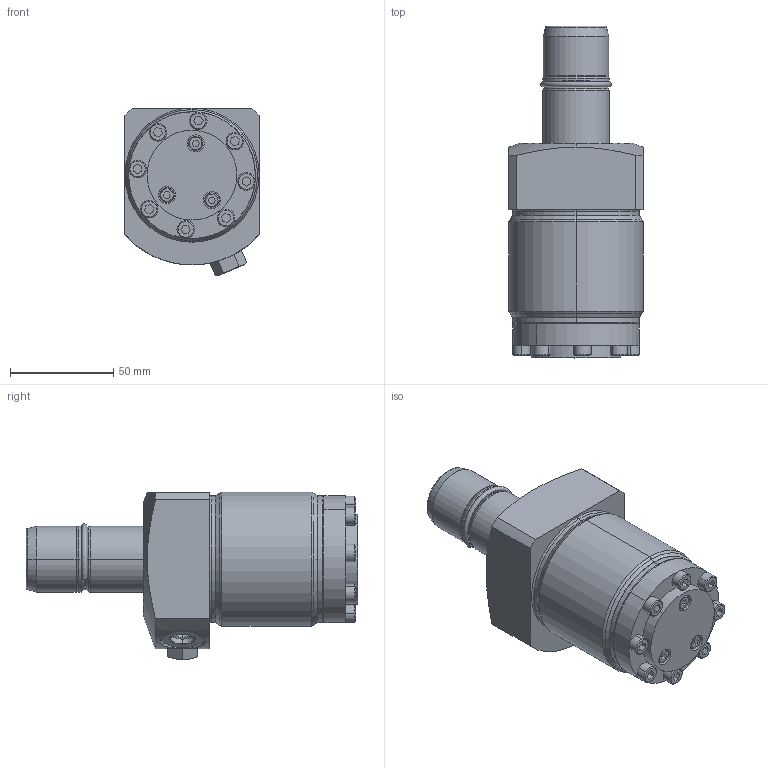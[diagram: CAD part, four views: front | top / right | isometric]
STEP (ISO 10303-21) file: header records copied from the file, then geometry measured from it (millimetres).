
FILE_DESCRIPTION((''),'2;1');
FILE_NAME('STLS-202_ASM','2012-02-07T',('chad.steele'),(''),'PRO/ENGINEER BY PARAMETRIC TECHNOLOGY CORPORATION, 2010040','PRO/ENGINEER BY PARAMETRIC TECHNOLOGY CORPORATION, 2010040','');
FILE_SCHEMA(('CONFIG_CONTROL_DESIGN'));
Products named in the file (11): CZ347030; CZ331030; CZ333044; CZ353225; CCA419028-1A; CCA521028-1A; CZ345040; CZ346020; CZ340044; PA1328024; STLS-202_ASM
Assembly tree (19 placements, depth 2):
  STLS-202_ASM
    CZ347030
    CZ331030
    CZ333044
    CZ353225
    CCA419028-1A  x3
    CCA521028-1A  x8
    CZ345040
    CZ346020
    CZ340044
    PA1328024
Bounding box: 65 x 160.75 x 81.33 mm (x, y, z)
Volume: 569484.6 mm3; surface area: 152211.2 mm2
Topology: 19 solids, 44 shells, 618 faces, 1390 edges, 864 vertices
Faces by surface type: cylinder 252, plane 188, cone 136, torus 42
Entity records: 13488 total; most frequent: DIRECTION 2590, CARTESIAN_POINT 2504, ORIENTED_EDGE 1912, AXIS2_PLACEMENT_3D 1110, EDGE_CURVE 1012, VERTEX_POINT 648, CIRCLE 614, EDGE_LOOP 558
